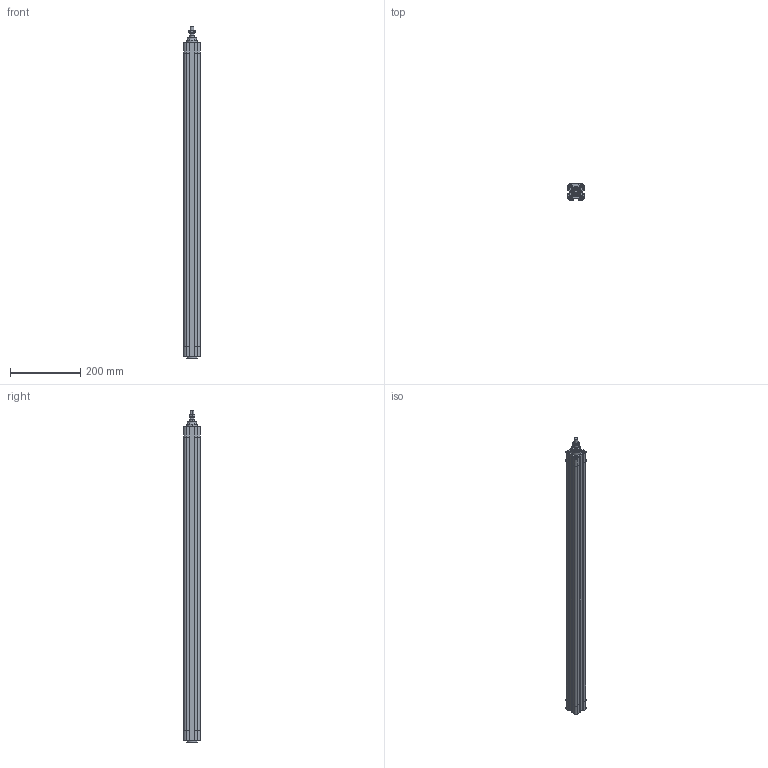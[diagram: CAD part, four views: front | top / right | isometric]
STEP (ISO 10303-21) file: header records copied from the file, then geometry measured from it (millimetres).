
FILE_DESCRIPTION((''),'2;1');
FILE_NAME('F:\Lib-3d\1380\CIL\1380_32_0800_01.stp','2004-01-07T16:01:57',('maffial1'),(''),'Autodesk Inventor 8','Autodesk Inventor 8','');
FILE_SCHEMA(('AUTOMOTIVE_DESIGN { 1 0 10303 214 1 1 1 1 }'));
Length unit declared in the file: millimetre
Products named in the file (4): 1380_32_0800_01; CPP01_32_800; CPP02_32_800; 1320_32_18F
Assembly tree (3 placements, depth 2):
  1380_32_0800_01
    CPP01_32_800
    CPP02_32_800
    1320_32_18F
Bounding box: 46 x 46 x 946 mm (x, y, z)
Volume: 1676578.7 mm3; surface area: 273402.9 mm2
Topology: 3 solids, 3 shells, 244 faces, 570 edges, 356 vertices
Faces by surface type: plane 83, bspline 67, cylinder 58, cone 34, torus 2
Entity records: 7668 total; most frequent: CARTESIAN_POINT 2166, DIRECTION 1136, ORIENTED_EDGE 1108, EDGE_CURVE 554, AXIS2_PLACEMENT_3D 422, VERTEX_POINT 356, VECTOR 292, LINE 292
